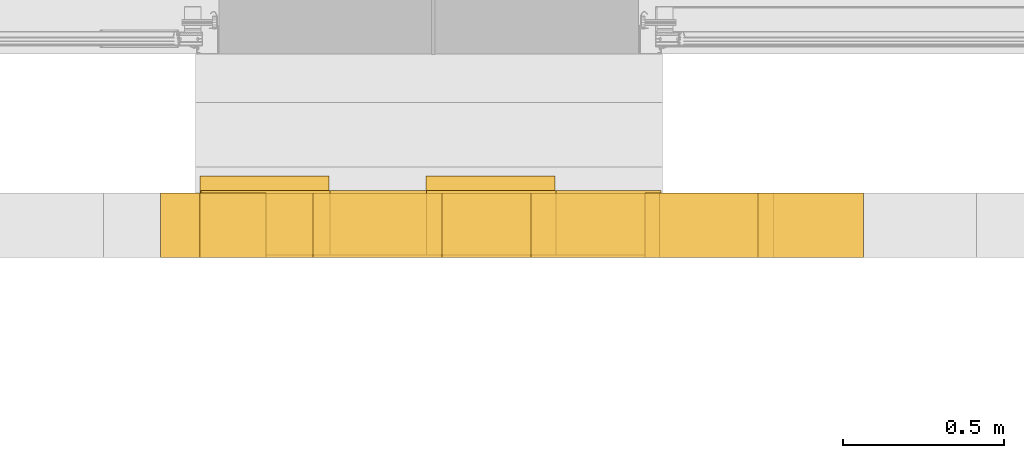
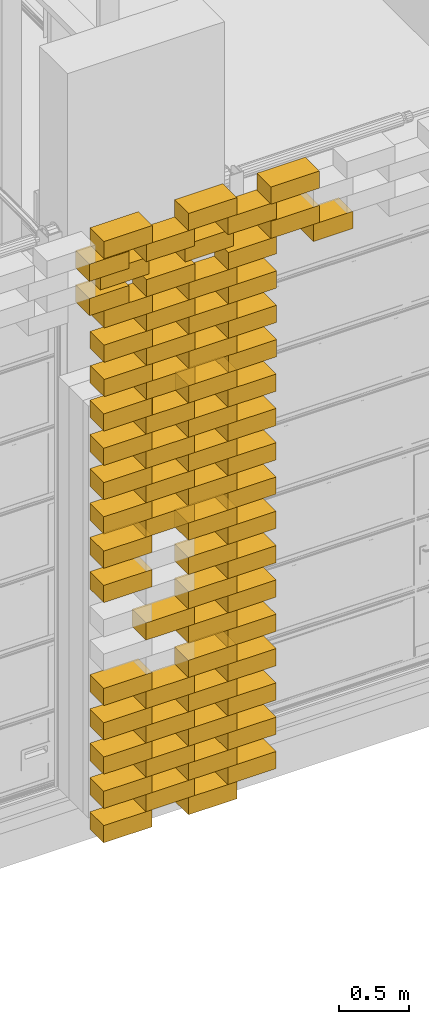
# One storey, part 55 of 62: 75 railings.
"""IFC2X3 building model written with IfcOpenShell, lengths in millimetres."""

import ifcopenshell
import ifcopenshell.guid

model = None  # the IFC model being written
_history = None  # IfcOwnerHistory: only IFC2X3 demands one
_inside = {}  # id of a spatial element -> (the spatial element, [elements in it])
_under = {}  # id of a project, library or spatial element -> (it, [spatial elements below it])
_declared = {}  # id of a project -> (the project, [libraries it declares])
_typed = {}  # id of a type object -> (the type object, [elements of that type])
_made_of = {}  # id of a material, layer set ... -> (it, [elements and type objects made of it])


def new_model(schema):
    """Start an empty IFC model of exactly this schema.

    Asked for "IFC4X3", IfcOpenShell would pick the latest addendum, in which some entities
    have other attributes; the version numbers below select the first issue.
    IFC2X3 requires an IfcOwnerHistory on every rooted entity: one is made here for all.
    """
    global model, _history
    if schema == "IFC4X3":
        model = ifcopenshell.file(schema_version=(4, 3, 0, 0))
    else:
        model = ifcopenshell.file(schema=schema)
    _inside.clear()
    _under.clear()
    _declared.clear()
    _typed.clear()
    _made_of.clear()
    _history = None
    if model.schema == "IFC2X3":
        org = make("IfcOrganization", Name="unknown")
        user = make(
            "IfcPersonAndOrganization",
            ThePerson=make("IfcPerson", FamilyName="unknown"),
            TheOrganization=org,
        )
        app = make(
            "IfcApplication",
            ApplicationDeveloper=org,
            Version="unknown",
            ApplicationFullName="unknown",
            ApplicationIdentifier="unknown",
        )
        _history = make(
            "IfcOwnerHistory",
            OwningUser=user,
            OwningApplication=app,
            ChangeAction="ADDED",
            CreationDate=0,
        )
    return model


def make(cls, **values):
    """One entity of the class cls with the attributes given. An attribute that is None is left unset."""
    return model.create_entity(
        cls, **{name: value for name, value in values.items() if value is not None}
    )


def entity(cls, *values):
    """Any entity or typed value of the class cls, its attributes in the order of the schema. None: left unset."""
    e = model.create_entity(cls)
    for i, value in enumerate(values):
        if value is not None:
            e[i] = value
    return e


def rooted(cls, **values):
    """An entity with a GlobalId (a new one), such as an element, a storey or a relation."""
    return make(cls, GlobalId=ifcopenshell.guid.new(), OwnerHistory=_history, **values)


def si_unit(unit_type, name, prefix=None):
    """IfcSIUnit, for example si_unit("LENGTHUNIT", "METRE", prefix="MILLI")."""
    return make("IfcSIUnit", UnitType=unit_type, Prefix=prefix, Name=name)


def converted_unit(unit_type, name, factor, base, dimensions=None, offset=None):
    """IfcConversionBasedUnit, such as the inch: factor (a typed value) times the base unit."""
    return make(
        "IfcConversionBasedUnit"
        if offset is None
        else "IfcConversionBasedUnitWithOffset",
        ConversionOffset=offset,
        Dimensions=None
        if dimensions is None
        else entity("IfcDimensionalExponents", *dimensions),
        UnitType=unit_type,
        Name=name,
        ConversionFactor=make(
            "IfcMeasureWithUnit", ValueComponent=factor, UnitComponent=base
        ),
    )


def derived_unit(unit_type, elements):
    """IfcDerivedUnit: a product of units, each with its exponent."""
    return make(
        "IfcDerivedUnit",
        Elements=[
            make("IfcDerivedUnitElement", Unit=unit, Exponent=power)
            for unit, power in elements
        ],
        UnitType=unit_type,
    )


def money_unit(currency):
    """IfcMonetaryUnit."""
    return make("IfcMonetaryUnit", Currency=currency)


def assignment(units):
    """IfcUnitAssignment: the units of a project."""
    return None if units is None else make("IfcUnitAssignment", Units=units)


def point(xyz):
    """IfcCartesianPoint."""
    return None if xyz is None else make("IfcCartesianPoint", Coordinates=xyz)


def direction(xyz):
    """IfcDirection."""
    return None if xyz is None else make("IfcDirection", DirectionRatios=xyz)


def frame(location, z_axis=None, x_axis=None):
    """IfcAxis2Placement3D, a coordinate frame: its origin and axes. An axis left out is left unset."""
    return make(
        "IfcAxis2Placement3D",
        Location=point(location),
        Axis=direction(z_axis),
        RefDirection=direction(x_axis),
    )


def origin_with_axes():
    """The frame at (0, 0, 0) with the z axis (0, 0, 1) and the x axis (1, 0, 0) written out."""
    return frame((0.0, 0.0, 0.0), z_axis=(0.0, 0.0, 1.0), x_axis=(1.0, 0.0, 0.0))


def place(relative_to, where):
    """IfcLocalPlacement: puts the frame where relative to a parent placement (None: the world)."""
    return make(
        "IfcLocalPlacement", PlacementRelTo=relative_to, RelativePlacement=where
    )


def context(
    kind, dimensions, precision=None, world=None, true_north=None, identifier=None
):
    """IfcGeometricRepresentationContext, for example the 3D "Model" context."""
    return make(
        "IfcGeometricRepresentationContext",
        ContextIdentifier=identifier,
        ContextType=kind,
        CoordinateSpaceDimension=dimensions,
        Precision=precision,
        WorldCoordinateSystem=world,
        TrueNorth=true_north,
    )


def subcontext(parent, identifier, kind, view, scale=None):
    """IfcGeometricRepresentationSubContext, for example "Body" below "Model"."""
    return make(
        "IfcGeometricRepresentationSubContext",
        ContextIdentifier=identifier,
        ContextType=kind,
        ParentContext=parent,
        TargetScale=scale,
        TargetView=view,
    )


def project(units=None, contexts=None):
    """IfcProject with its units and contexts."""
    return rooted(
        "IfcProject",
        Name="project",
        RepresentationContexts=contexts,
        UnitsInContext=assignment(units),
    )


def spatial(cls, under=None, at=None, **own):
    """A site, building, storey or space (cls), placed at a placement, below another one or the project."""
    s = rooted(cls, ObjectPlacement=at, **own)
    if under is not None:
        _under.setdefault(under.id(), (under, []))[1].append(s)
    return s


def polyline(points):
    """IfcPolyline through the points."""
    return make("IfcPolyline", Points=[point(p) for p in points])


def outline(outer, holes=None, kind="AREA"):
    """IfcArbitraryClosedProfileDef: a profile drawn as a closed curve; with holes, ...WithVoids."""
    if holes is None:
        return make("IfcArbitraryClosedProfileDef", ProfileType=kind, OuterCurve=outer)
    return make(
        "IfcArbitraryProfileDefWithVoids",
        ProfileType=kind,
        OuterCurve=outer,
        InnerCurves=holes,
    )


def extrude(swept, where, along, depth):
    """IfcExtrudedAreaSolid: the profile swept, set in the frame where, extruded along a direction by depth."""
    return make(
        "IfcExtrudedAreaSolid",
        SweptArea=swept,
        Position=where,
        ExtrudedDirection=direction(along),
        Depth=depth,
    )


def shape(context_of_items, identifier, shape_type, items):
    """IfcShapeRepresentation: the items that make up one representation, for example the "Body"."""
    return make(
        "IfcShapeRepresentation",
        ContextOfItems=context_of_items,
        RepresentationIdentifier=identifier,
        RepresentationType=shape_type,
        Items=items,
    )


def material(Name=None, Category=None):
    """IfcMaterial."""
    return make("IfcMaterial", Name=Name, Category=Category)


def made_of(thing, what):
    """Note that an element or type object is made of a material, layer set ...; save() writes the relation."""
    if what is not None:
        _made_of.setdefault(what.id(), (what, []))[1].append(thing)
    return thing


def type_object(cls, material=None, **own):
    """A type object (cls), such as IfcWallType, which elements share."""
    return made_of(rooted(cls, **own), material)


def element(
    cls,
    number,
    at=None,
    inside=None,
    cuts=None,
    type_object=None,
    material=None,
    context=None,
    identifier="Body",
    shape_type=None,
    held_by="IfcProductDefinitionShape",
    body=None,
    shapes=None,
    **own,
):
    """One element of the class cls, such as IfcWall. Its Tag is "e" and its number.

    at: its placement. inside: the storey or other place that contains it. cuts: it is an
    opening in that element (IfcRelVoidsElement). A single representation is given by context,
    identifier, shape_type and body (its items); several are given by shapes. held_by: the class
    of the entity that holds the representations. save() writes the other relations.
    """
    e = rooted(cls, Tag="e%d" % number, ObjectPlacement=at, **own)
    if body is not None:
        shapes = [shape(context, identifier, shape_type, body)]
    if shapes is not None:
        e.Representation = make(held_by, Representations=shapes)
    if inside is not None:
        _inside.setdefault(inside.id(), (inside, []))[1].append(e)
    if cuts is not None:
        rooted(
            "IfcRelVoidsElement", RelatingBuildingElement=cuts, RelatedOpeningElement=e
        )
    if type_object is not None:
        _typed.setdefault(type_object.id(), (type_object, []))[1].append(e)
    return made_of(e, material)


def aggregate(whole, parts):
    """IfcRelAggregates: a whole, such as a stair, and the parts it consists of."""
    return rooted("IfcRelAggregates", RelatingObject=whole, RelatedObjects=parts)


def save(model, path):
    """Write the relations noted so far, then the file.

    IfcRelAggregates (storeys below a building ...), IfcRelContainedInSpatialStructure (elements
    in a storey), IfcRelDefinesByType, IfcRelAssociatesMaterial and IfcRelDeclares: one each for
    every whole, place, type object, material and project.
    """
    for whole, parts in _under.values():
        aggregate(whole, parts)
    for where, things in _inside.values():
        rooted(
            "IfcRelContainedInSpatialStructure",
            RelatedElements=things,
            RelatingStructure=where,
        )
    for kind, things in _typed.values():
        rooted("IfcRelDefinesByType", RelatedObjects=things, RelatingType=kind)
    for what, things in _made_of.values():
        rooted("IfcRelAssociatesMaterial", RelatedObjects=things, RelatingMaterial=what)
    for by, libraries in _declared.values():
        rooted("IfcRelDeclares", RelatingContext=by, RelatedDefinitions=libraries)
    model.write(path)


model = new_model("IFC2X3")

# Units and contexts
model_context = context("Model", 3, precision=0.01, world=origin_with_axes(), true_north=direction((0.0, 1.0)))
body_context = subcontext(model_context, "Body", "Model", "MODEL_VIEW")
ifc_project = project(units=[si_unit("LENGTHUNIT", "METRE", prefix="MILLI"), si_unit("AREAUNIT", "SQUARE_METRE"), si_unit("VOLUMEUNIT", "CUBIC_METRE"), converted_unit("PLANEANGLEUNIT", "DEGREE", entity("IfcPlaneAngleMeasure", 0.0174532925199), si_unit("PLANEANGLEUNIT", "RADIAN"), dimensions=[0, 0, 0, 0, 0, 0, 0]), si_unit("SOLIDANGLEUNIT", "STERADIAN"), money_unit("EUR"), converted_unit("TIMEUNIT", "Year", entity("IfcTimeMeasure", 31556926.0), si_unit("TIMEUNIT", "SECOND"), dimensions=[0, 0, 1, 0, 0, 0, 0]), si_unit("MASSUNIT", "GRAM", prefix="KILO"), si_unit("THERMODYNAMICTEMPERATUREUNIT", "DEGREE_CELSIUS"), si_unit("LUMINOUSINTENSITYUNIT", "LUMEN"), si_unit("ENERGYUNIT", "JOULE", prefix="MEGA"), derived_unit("THERMALCONDUCTANCEUNIT", [(si_unit("POWERUNIT", "WATT"), 1), (si_unit("LENGTHUNIT", "METRE"), -1), (si_unit("THERMODYNAMICTEMPERATUREUNIT", "KELVIN"), -1)]), derived_unit("SPECIFICHEATCAPACITYUNIT", [(si_unit("ENERGYUNIT", "JOULE"), 1), (si_unit("MASSUNIT", "GRAM", prefix="KILO"), -1), (si_unit("THERMODYNAMICTEMPERATUREUNIT", "KELVIN"), -1)]), derived_unit("MASSDENSITYUNIT", [(si_unit("MASSUNIT", "GRAM", prefix="KILO"), 1), (si_unit("VOLUMEUNIT", "CUBIC_METRE"), -1)])], contexts=[model_context])

# Site, building, storey
site_placement = place(None, origin_with_axes())
site = spatial("IfcSite", under=ifc_project, at=site_placement, Name="KIRDE 14, ELVA", CompositionType="ELEMENT")
building_placement = place(site_placement, origin_with_axes())
building = spatial("IfcBuilding", under=site, at=building_placement, Name="PPA ja Päästeameti ühishoone", CompositionType="ELEMENT")
storey_placement = place(building_placement, origin_with_axes())
storey = spatial("IfcBuildingStorey", under=building, at=storey_placement, Name="Esimene korrus", CompositionType="ELEMENT", Elevation=0.0)

# Railings
ifc_material = material(Name="Air Space")
railing_type = type_object("IfcRailingType", Name="Air Space 200", PredefinedType="NOTDEFINED")
for number, where, z_axis, x_axis in (
    (1, (33822.9681008, -431.000100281, 1100.0), (0.0, 0.0, 1.0), (1.0, -2.32830643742e-09, 0.0)),
    (2, (33822.9681008, -431.000100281, 1700.0), (0.0, 0.0, 1.0), (1.0, -2.32830643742e-09, 0.0)),
):
    element("IfcRailing", number, at=place(storey_placement, frame(where, z_axis=z_axis, x_axis=x_axis)), inside=storey, type_object=railing_type, material=ifc_material, Name="plokk", PredefinedType="NOTDEFINED", context=body_context, shape_type="SweptSolid", body=[
        extrude(outline(polyline([(0.0, -200.0), (399.999999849, -200.0), (399.999999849, 0.0), (0.0, 0.0), (0.0, -200.0)])), origin_with_axes(), (0.0, 0.0, 1.0), 150.0),
    ])
railing_1_placement = place(storey_placement, frame((34855.8351083, -431.000095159, 4550.0), z_axis=(0.0, 0.0, 1.0), x_axis=(1.0, 0.0, 0.0)))
element("IfcRailing", 3, at=railing_1_placement, inside=storey, type_object=railing_type, material=ifc_material, Name="plokk", PredefinedType="NOTDEFINED", context=body_context, shape_type="SweptSolid", body=[
    extrude(outline(polyline([(0.0, -200.0), (327.204635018, -200.0), (327.204635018, 0.0), (0.0, 0.0), (0.0, -200.0)])), origin_with_axes(), (0.0, 0.0, 1.0), 150.0),
])
for number, where, z_axis, x_axis in (
    (4, (33822.9681008, -431.000100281, 1400.0), (0.0, 0.0, 1.0), (1.0, -2.32830643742e-09, 0.0)),
    (5, (33822.9681008, -431.000100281, 1100.0), (0.0, 0.0, 1.0), (1.0, -2.32830643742e-09, 0.0)),
):
    element("IfcRailing", number, at=place(storey_placement, frame(where, z_axis=z_axis, x_axis=x_axis)), inside=storey, type_object=railing_type, material=ifc_material, Name="plokk", PredefinedType="NOTDEFINED", context=body_context, shape_type="SweptSolid", body=[
        extrude(outline(polyline([(0.0, -200.0), (399.999999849, -200.0), (399.999999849, 0.0), (0.0, 0.0), (0.0, -200.0)])), origin_with_axes(), (0.0, 0.0, 1.0), 150.0),
    ])
railing_2_placement = place(storey_placement, frame((33472.9681004, -431.000100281, 950.0), z_axis=(0.0, 0.0, 1.0), x_axis=(1.0, -2.3283064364e-09, 0.0)))
element("IfcRailing", 6, at=railing_2_placement, inside=storey, type_object=railing_type, material=ifc_material, Name="plokk", PredefinedType="NOTDEFINED", context=body_context, shape_type="SweptSolid", body=[
    extrude(outline(polyline([(0.0, -200.0), (400.000000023, -200.0), (400.000000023, 0.0), (0.0, 0.0), (0.0, -200.0)])), origin_with_axes(), (0.0, 0.0, 1.0), 150.0),
])
railing_3_placement = place(storey_placement, frame((33122.9681001, -431.000100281, -100.0), z_axis=(0.0, 0.0, 1.0), x_axis=(1.0, 0.0, 0.0)))
element("IfcRailing", 7, at=railing_3_placement, inside=storey, type_object=railing_type, material=ifc_material, Name="plokk", PredefinedType="NOTDEFINED", context=body_context, shape_type="SweptSolid", body=[
    extrude(outline(polyline([(0.0, -200.0), (400.000000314, -200.0), (400.000000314, 0.0), (0.0, 0.0), (0.0, -200.0)])), origin_with_axes(), (0.0, 0.0, 1.0), 150.0),
])
railing_4_placement = place(storey_placement, frame((33822.9681008, -431.000100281, 200.0), z_axis=(0.0, 0.0, 1.0), x_axis=(1.0, -2.32830643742e-09, 0.0)))
element("IfcRailing", 8, at=railing_4_placement, inside=storey, type_object=railing_type, material=ifc_material, Name="plokk", PredefinedType="NOTDEFINED", context=body_context, shape_type="SweptSolid", body=[
    extrude(outline(polyline([(0.0, -200.0), (399.999999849, -200.0), (399.999999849, 0.0), (0.0, 0.0), (0.0, -200.0)])), origin_with_axes(), (0.0, 0.0, 1.0), 150.0),
])
railing_5_placement = place(storey_placement, frame((33472.9681004, -431.000100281, 50.0), z_axis=(0.0, 0.0, 1.0), x_axis=(1.0, -2.3283064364e-09, 0.0)))
element("IfcRailing", 9, at=railing_5_placement, inside=storey, type_object=railing_type, material=ifc_material, Name="plokk", PredefinedType="NOTDEFINED", context=body_context, shape_type="SweptSolid", body=[
    extrude(outline(polyline([(0.0, -200.0), (400.000000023, -200.0), (400.000000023, 0.0), (0.0, 0.0), (0.0, -200.0)])), origin_with_axes(), (0.0, 0.0, 1.0), 150.0),
])
railing_6_placement = place(storey_placement, frame((33122.9681001, -431.000100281, 200.0), z_axis=(0.0, 0.0, 1.0), x_axis=(1.0, 0.0, 0.0)))
element("IfcRailing", 10, at=railing_6_placement, inside=storey, type_object=railing_type, material=ifc_material, Name="plokk", PredefinedType="NOTDEFINED", context=body_context, shape_type="SweptSolid", body=[
    extrude(outline(polyline([(0.0, -200.0), (400.000000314, -200.0), (400.000000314, 0.0), (0.0, 0.0), (0.0, -200.0)])), origin_with_axes(), (0.0, 0.0, 1.0), 150.0),
])
railing_7_placement = place(storey_placement, frame((33822.9681008, -431.000100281, 800.0), z_axis=(0.0, 0.0, 1.0), x_axis=(1.0, -2.32830643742e-09, 0.0)))
element("IfcRailing", 11, at=railing_7_placement, inside=storey, type_object=railing_type, material=ifc_material, Name="plokk", PredefinedType="NOTDEFINED", context=body_context, shape_type="SweptSolid", body=[
    extrude(outline(polyline([(0.0, -200.0), (399.999999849, -200.0), (399.999999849, 0.0), (0.0, 0.0), (0.0, -200.0)])), origin_with_axes(), (0.0, 0.0, 1.0), 150.0),
])
railing_8_placement = place(storey_placement, frame((33472.9681004, -431.000100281, 350.0), z_axis=(0.0, 0.0, 1.0), x_axis=(1.0, -2.3283064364e-09, 0.0)))
element("IfcRailing", 12, at=railing_8_placement, inside=storey, type_object=railing_type, material=ifc_material, Name="plokk", PredefinedType="NOTDEFINED", context=body_context, shape_type="SweptSolid", body=[
    extrude(outline(polyline([(0.0, -200.0), (400.000000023, -200.0), (400.000000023, 0.0), (0.0, 0.0), (0.0, -200.0)])), origin_with_axes(), (0.0, 0.0, 1.0), 150.0),
])
railing_9_placement = place(storey_placement, frame((33822.9681008, -431.000100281, 2000.0), z_axis=(0.0, 0.0, 1.0), x_axis=(1.0, -2.32830643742e-09, 0.0)))
element("IfcRailing", 13, at=railing_9_placement, inside=storey, type_object=railing_type, material=ifc_material, Name="plokk", PredefinedType="NOTDEFINED", context=body_context, shape_type="SweptSolid", body=[
    extrude(outline(polyline([(0.0, -200.0), (399.999999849, -200.0), (399.999999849, 0.0), (0.0, 0.0), (0.0, -200.0)])), origin_with_axes(), (0.0, 0.0, 1.0), 150.0),
])
railing_10_placement = place(storey_placement, frame((33122.9681001, -431.000100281, 2000.0), z_axis=(0.0, 0.0, 1.0), x_axis=(1.0, 0.0, 0.0)))
element("IfcRailing", 14, at=railing_10_placement, inside=storey, type_object=railing_type, material=ifc_material, Name="plokk", PredefinedType="NOTDEFINED", context=body_context, shape_type="SweptSolid", body=[
    extrude(outline(polyline([(0.0, -200.0), (400.000000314, -200.0), (400.000000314, 0.0), (0.0, 0.0), (0.0, -200.0)])), origin_with_axes(), (0.0, 0.0, 1.0), 150.0),
])
railing_11_placement = place(storey_placement, frame((34505.8351086, -431.000094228, 4700.0), z_axis=(0.0, 0.0, 1.0), x_axis=(1.0, -2.32830643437e-09, 0.0)))
element("IfcRailing", 15, at=railing_11_placement, inside=storey, type_object=railing_type, material=ifc_material, Name="plokk", PredefinedType="NOTDEFINED", context=body_context, shape_type="SweptSolid", body=[
    extrude(outline(polyline([(0.0, -200.0), (400.000000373, -200.0), (400.000000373, 0.0), (0.0, 0.0), (0.0, -200.0)])), origin_with_axes(), (0.0, 0.0, 1.0), 150.0),
])
for number, where, z_axis, x_axis in (
    (16, (34152.8961241, -431.000100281, 4250.0), (0.0, 0.0, 1.0), (1.0, 2.32830643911e-09, 0.0)),
    (17, (34152.8961241, -431.000100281, 4550.0), (0.0, 0.0, 1.0), (1.0, 2.32830643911e-09, 0.0)),
    (18, (34152.8961241, -431.000100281, 3950.0), (0.0, 0.0, 1.0), (1.0, 2.32830643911e-09, 0.0)),
    (19, (34152.8961241, -431.000100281, 3650.0), (0.0, 0.0, 1.0), (1.0, 2.32830643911e-09, 0.0)),
):
    element("IfcRailing", number, at=place(storey_placement, frame(where, z_axis=z_axis, x_axis=x_axis)), inside=storey, type_object=railing_type, material=ifc_material, Name="plokk", PredefinedType="NOTDEFINED", context=body_context, shape_type="SweptSolid", body=[
        extrude(outline(polyline([(0.0, -200.0), (399.999999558, -200.0), (399.999999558, 0.0), (0.0, 0.0), (0.0, -200.0)])), origin_with_axes(), (0.0, 0.0, 1.0), 150.0),
    ])
railing_12_placement = place(storey_placement, frame((33126.5679142, -377.395681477, 4700.0), z_axis=(0.0, 0.0, 1.0), x_axis=(1.0, 0.0, 0.0)))
element("IfcRailing", 20, at=railing_12_placement, inside=storey, type_object=railing_type, material=ifc_material, Name="plokk", PredefinedType="NOTDEFINED", context=body_context, shape_type="SweptSolid", body=[
    extrude(outline(polyline([(0.0, -200.0), (400.000000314, -200.0), (400.000000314, 0.0), (0.0, 0.0), (0.0, -200.0)])), origin_with_axes(), (0.0, 0.0, 1.0), 150.0),
])
railing_13_placement = place(storey_placement, frame((34155.8351083, -422.760598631, 4850.0), z_axis=(0.0, 0.0, 1.0), x_axis=(1.0, 2.32830643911e-09, 0.0)))
element("IfcRailing", 21, at=railing_13_placement, inside=storey, type_object=railing_type, material=ifc_material, Name="plokk", PredefinedType="NOTDEFINED", context=body_context, shape_type="SweptSolid", body=[
    extrude(outline(polyline([(0.0, -200.0), (399.999999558, -200.0), (399.999999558, 0.0), (0.0, 0.0), (0.0, -200.0)])), origin_with_axes(), (0.0, 0.0, 1.0), 150.0),
])
railing_14_placement = place(storey_placement, frame((34505.8351086, -431.000094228, 5000.0), z_axis=(0.0, 0.0, 1.0), x_axis=(1.0, -2.32830643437e-09, 0.0)))
element("IfcRailing", 22, at=railing_14_placement, inside=storey, type_object=railing_type, material=ifc_material, Name="plokk", PredefinedType="NOTDEFINED", context=body_context, shape_type="SweptSolid", body=[
    extrude(outline(polyline([(0.0, -200.0), (400.000000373, -200.0), (400.000000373, 0.0), (0.0, 0.0), (0.0, -200.0)])), origin_with_axes(), (0.0, 0.0, 1.0), 150.0),
])
railing_15_placement = place(storey_placement, frame((33826.5679149, -377.395681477, 4700.0), z_axis=(0.0, 0.0, 1.0), x_axis=(1.0, -2.32830643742e-09, 0.0)))
element("IfcRailing", 23, at=railing_15_placement, inside=storey, type_object=railing_type, material=ifc_material, Name="plokk", PredefinedType="NOTDEFINED", context=body_context, shape_type="SweptSolid", body=[
    extrude(outline(polyline([(0.0, -200.0), (399.999999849, -200.0), (399.999999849, 0.0), (0.0, 0.0), (0.0, -200.0)])), origin_with_axes(), (0.0, 0.0, 1.0), 150.0),
])
railing_16_placement = place(storey_placement, frame((33476.5679144, -431.000100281, 4550.0), z_axis=(0.0, 0.0, 1.0), x_axis=(1.0, -2.3283064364e-09, 0.0)))
element("IfcRailing", 24, at=railing_16_placement, inside=storey, type_object=railing_type, material=ifc_material, Name="plokk", PredefinedType="NOTDEFINED", context=body_context, shape_type="SweptSolid", body=[
    extrude(outline(polyline([(0.0, -200.0), (400.000000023, -200.0), (400.000000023, 0.0), (0.0, 0.0), (0.0, -200.0)])), origin_with_axes(), (0.0, 0.0, 1.0), 150.0),
])
railing_17_placement = place(storey_placement, frame((33829.506899, -422.760598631, 5000.0), z_axis=(0.0, 0.0, 1.0), x_axis=(1.0, -2.32830643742e-09, 0.0)))
element("IfcRailing", 25, at=railing_17_placement, inside=storey, type_object=railing_type, material=ifc_material, Name="plokk", PredefinedType="NOTDEFINED", context=body_context, shape_type="SweptSolid", body=[
    extrude(outline(polyline([(0.0, -200.0), (399.999999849, -200.0), (399.999999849, 0.0), (0.0, 0.0), (0.0, -200.0)])), origin_with_axes(), (0.0, 0.0, 1.0), 150.0),
])
for number, where, z_axis, x_axis in (
    (26, (33126.5679142, -431.000100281, 3800.0), (0.0, 0.0, 1.0), (1.0, 0.0, 0.0)),
    (27, (33126.5679142, -431.000100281, 3500.0), (0.0, 0.0, 1.0), (1.0, 0.0, 0.0)),
):
    element("IfcRailing", number, at=place(storey_placement, frame(where, z_axis=z_axis, x_axis=x_axis)), inside=storey, type_object=railing_type, material=ifc_material, Name="plokk", PredefinedType="NOTDEFINED", context=body_context, shape_type="SweptSolid", body=[
        extrude(outline(polyline([(0.0, -200.0), (400.000000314, -200.0), (400.000000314, 0.0), (0.0, 0.0), (0.0, -200.0)])), origin_with_axes(), (0.0, 0.0, 1.0), 150.0),
    ])
railing_18_placement = place(storey_placement, frame((33826.5679149, -431.000100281, 3500.0), z_axis=(0.0, 0.0, 1.0), x_axis=(1.0, -2.32830643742e-09, 0.0)))
element("IfcRailing", 28, at=railing_18_placement, inside=storey, type_object=railing_type, material=ifc_material, Name="plokk", PredefinedType="NOTDEFINED", context=body_context, shape_type="SweptSolid", body=[
    extrude(outline(polyline([(0.0, -200.0), (399.999999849, -200.0), (399.999999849, 0.0), (0.0, 0.0), (0.0, -200.0)])), origin_with_axes(), (0.0, 0.0, 1.0), 150.0),
])
railing_19_placement = place(storey_placement, frame((33476.5679144, -431.000100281, 3650.0), z_axis=(0.0, 0.0, 1.0), x_axis=(1.0, -2.3283064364e-09, 0.0)))
element("IfcRailing", 29, at=railing_19_placement, inside=storey, type_object=railing_type, material=ifc_material, Name="plokk", PredefinedType="NOTDEFINED", context=body_context, shape_type="SweptSolid", body=[
    extrude(outline(polyline([(0.0, -200.0), (400.000000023, -200.0), (400.000000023, 0.0), (0.0, 0.0), (0.0, -200.0)])), origin_with_axes(), (0.0, 0.0, 1.0), 150.0),
])
railing_20_placement = place(storey_placement, frame((33826.5679149, -431.000100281, 3800.0), z_axis=(0.0, 0.0, 1.0), x_axis=(1.0, -2.32830643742e-09, 0.0)))
element("IfcRailing", 30, at=railing_20_placement, inside=storey, type_object=railing_type, material=ifc_material, Name="plokk", PredefinedType="NOTDEFINED", context=body_context, shape_type="SweptSolid", body=[
    extrude(outline(polyline([(0.0, -200.0), (399.999999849, -200.0), (399.999999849, 0.0), (0.0, 0.0), (0.0, -200.0)])), origin_with_axes(), (0.0, 0.0, 1.0), 150.0),
])
railing_21_placement = place(storey_placement, frame((33476.5679144, -431.000100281, 3950.0), z_axis=(0.0, 0.0, 1.0), x_axis=(1.0, -2.3283064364e-09, 0.0)))
element("IfcRailing", 31, at=railing_21_placement, inside=storey, type_object=railing_type, material=ifc_material, Name="plokk", PredefinedType="NOTDEFINED", context=body_context, shape_type="SweptSolid", body=[
    extrude(outline(polyline([(0.0, -200.0), (400.000000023, -200.0), (400.000000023, 0.0), (0.0, 0.0), (0.0, -200.0)])), origin_with_axes(), (0.0, 0.0, 1.0), 150.0),
])
railing_22_placement = place(storey_placement, frame((33126.5679142, -431.000100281, 4100.0), z_axis=(0.0, 0.0, 1.0), x_axis=(1.0, 0.0, 0.0)))
element("IfcRailing", 32, at=railing_22_placement, inside=storey, type_object=railing_type, material=ifc_material, Name="plokk", PredefinedType="NOTDEFINED", context=body_context, shape_type="SweptSolid", body=[
    extrude(outline(polyline([(0.0, -200.0), (400.000000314, -200.0), (400.000000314, 0.0), (0.0, 0.0), (0.0, -200.0)])), origin_with_axes(), (0.0, 0.0, 1.0), 150.0),
])
railing_23_placement = place(storey_placement, frame((33826.5679149, -431.000100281, 4100.0), z_axis=(0.0, 0.0, 1.0), x_axis=(1.0, -2.32830643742e-09, 0.0)))
element("IfcRailing", 33, at=railing_23_placement, inside=storey, type_object=railing_type, material=ifc_material, Name="plokk", PredefinedType="NOTDEFINED", context=body_context, shape_type="SweptSolid", body=[
    extrude(outline(polyline([(0.0, -200.0), (399.999999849, -200.0), (399.999999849, 0.0), (0.0, 0.0), (0.0, -200.0)])), origin_with_axes(), (0.0, 0.0, 1.0), 150.0),
])
railing_24_placement = place(storey_placement, frame((33476.5679144, -431.000100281, 4250.0), z_axis=(0.0, 0.0, 1.0), x_axis=(1.0, -2.3283064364e-09, 0.0)))
element("IfcRailing", 34, at=railing_24_placement, inside=storey, type_object=railing_type, material=ifc_material, Name="plokk", PredefinedType="NOTDEFINED", context=body_context, shape_type="SweptSolid", body=[
    extrude(outline(polyline([(0.0, -200.0), (400.000000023, -200.0), (400.000000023, 0.0), (0.0, 0.0), (0.0, -200.0)])), origin_with_axes(), (0.0, 0.0, 1.0), 150.0),
])
railing_25_placement = place(storey_placement, frame((33126.5679142, -431.000100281, 4400.0), z_axis=(0.0, 0.0, 1.0), x_axis=(1.0, 0.0, 0.0)))
element("IfcRailing", 35, at=railing_25_placement, inside=storey, type_object=railing_type, material=ifc_material, Name="plokk", PredefinedType="NOTDEFINED", context=body_context, shape_type="SweptSolid", body=[
    extrude(outline(polyline([(0.0, -200.0), (400.000000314, -200.0), (400.000000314, 0.0), (0.0, 0.0), (0.0, -200.0)])), origin_with_axes(), (0.0, 0.0, 1.0), 150.0),
])
railing_26_placement = place(storey_placement, frame((33826.5679149, -431.000100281, 4400.0), z_axis=(0.0, 0.0, 1.0), x_axis=(1.0, -2.32830643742e-09, 0.0)))
element("IfcRailing", 36, at=railing_26_placement, inside=storey, type_object=railing_type, material=ifc_material, Name="plokk", PredefinedType="NOTDEFINED", context=body_context, shape_type="SweptSolid", body=[
    extrude(outline(polyline([(0.0, -200.0), (399.999999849, -200.0), (399.999999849, 0.0), (0.0, 0.0), (0.0, -200.0)])), origin_with_axes(), (0.0, 0.0, 1.0), 150.0),
])
for number, where, z_axis, x_axis in (
    (37, (33472.9681004, -431.000100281, 3050.0), (0.0, 0.0, 1.0), (1.0, -2.3283064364e-09, 0.0)),
    (38, (33472.9681004, -431.000100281, 2750.0), (0.0, 0.0, 1.0), (1.0, -2.3283064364e-09, 0.0)),
):
    element("IfcRailing", number, at=place(storey_placement, frame(where, z_axis=z_axis, x_axis=x_axis)), inside=storey, type_object=railing_type, material=ifc_material, Name="plokk", PredefinedType="NOTDEFINED", context=body_context, shape_type="SweptSolid", body=[
        extrude(outline(polyline([(0.0, -200.0), (400.000000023, -200.0), (400.000000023, 0.0), (0.0, 0.0), (0.0, -200.0)])), origin_with_axes(), (0.0, 0.0, 1.0), 150.0),
    ])
railing_27_placement = place(storey_placement, frame((33822.9681008, -431.000100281, 2900.0), z_axis=(0.0, 0.0, 1.0), x_axis=(1.0, -2.32830643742e-09, 0.0)))
element("IfcRailing", 39, at=railing_27_placement, inside=storey, type_object=railing_type, material=ifc_material, Name="plokk", PredefinedType="NOTDEFINED", context=body_context, shape_type="SweptSolid", body=[
    extrude(outline(polyline([(0.0, -200.0), (399.999999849, -200.0), (399.999999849, 0.0), (0.0, 0.0), (0.0, -200.0)])), origin_with_axes(), (0.0, 0.0, 1.0), 150.0),
])
for number, where, z_axis, x_axis in (
    (40, (34149.2963101, -431.000100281, 3050.0), (0.0, 0.0, 1.0), (1.0, 2.32830643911e-09, 0.0)),
    (41, (34149.2963101, -431.000100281, 3350.0), (0.0, 0.0, 1.0), (1.0, 2.32830643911e-09, 0.0)),
):
    element("IfcRailing", number, at=place(storey_placement, frame(where, z_axis=z_axis, x_axis=x_axis)), inside=storey, type_object=railing_type, material=ifc_material, Name="plokk", PredefinedType="NOTDEFINED", context=body_context, shape_type="SweptSolid", body=[
        extrude(outline(polyline([(0.0, -200.0), (399.999999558, -200.0), (399.999999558, 0.0), (0.0, 0.0), (0.0, -200.0)])), origin_with_axes(), (0.0, 0.0, 1.0), 150.0),
    ])
railing_28_placement = place(storey_placement, frame((33122.9681001, -431.000100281, 2300.0), z_axis=(0.0, 0.0, 1.0), x_axis=(1.0, 0.0, 0.0)))
element("IfcRailing", 42, at=railing_28_placement, inside=storey, type_object=railing_type, material=ifc_material, Name="plokk", PredefinedType="NOTDEFINED", context=body_context, shape_type="SweptSolid", body=[
    extrude(outline(polyline([(0.0, -200.0), (400.000000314, -200.0), (400.000000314, 0.0), (0.0, 0.0), (0.0, -200.0)])), origin_with_axes(), (0.0, 0.0, 1.0), 150.0),
])
railing_29_placement = place(storey_placement, frame((33822.9681008, -431.000100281, 2600.0), z_axis=(0.0, 0.0, 1.0), x_axis=(1.0, -2.32830643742e-09, 0.0)))
element("IfcRailing", 43, at=railing_29_placement, inside=storey, type_object=railing_type, material=ifc_material, Name="plokk", PredefinedType="NOTDEFINED", context=body_context, shape_type="SweptSolid", body=[
    extrude(outline(polyline([(0.0, -200.0), (399.999999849, -200.0), (399.999999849, 0.0), (0.0, 0.0), (0.0, -200.0)])), origin_with_axes(), (0.0, 0.0, 1.0), 150.0),
])
railing_30_placement = place(storey_placement, frame((34149.2963101, -431.000100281, 2150.0), z_axis=(0.0, 0.0, 1.0), x_axis=(1.0, 2.32830643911e-09, 0.0)))
element("IfcRailing", 44, at=railing_30_placement, inside=storey, type_object=railing_type, material=ifc_material, Name="plokk", PredefinedType="NOTDEFINED", context=body_context, shape_type="SweptSolid", body=[
    extrude(outline(polyline([(0.0, -200.0), (399.999999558, -200.0), (399.999999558, 0.0), (0.0, 0.0), (0.0, -200.0)])), origin_with_axes(), (0.0, 0.0, 1.0), 150.0),
])
railing_31_placement = place(storey_placement, frame((33122.9681001, -431.000100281, 1100.0), z_axis=(0.0, 0.0, 1.0), x_axis=(1.0, 0.0, 0.0)))
element("IfcRailing", 45, at=railing_31_placement, inside=storey, type_object=railing_type, material=ifc_material, Name="plokk", PredefinedType="NOTDEFINED", context=body_context, shape_type="SweptSolid", body=[
    extrude(outline(polyline([(0.0, -200.0), (400.000000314, -200.0), (400.000000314, 0.0), (0.0, 0.0), (0.0, -200.0)])), origin_with_axes(), (0.0, 0.0, 1.0), 150.0),
])
railing_32_placement = place(storey_placement, frame((33822.9681008, -431.000100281, 2300.0), z_axis=(0.0, 0.0, 1.0), x_axis=(1.0, -2.32830643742e-09, 0.0)))
element("IfcRailing", 46, at=railing_32_placement, inside=storey, type_object=railing_type, material=ifc_material, Name="plokk", PredefinedType="NOTDEFINED", context=body_context, shape_type="SweptSolid", body=[
    extrude(outline(polyline([(0.0, -200.0), (399.999999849, -200.0), (399.999999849, 0.0), (0.0, 0.0), (0.0, -200.0)])), origin_with_axes(), (0.0, 0.0, 1.0), 150.0),
])
railing_33_placement = place(storey_placement, frame((34149.2963101, -431.000100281, 1850.0), z_axis=(0.0, 0.0, 1.0), x_axis=(1.0, 2.32830643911e-09, 0.0)))
element("IfcRailing", 47, at=railing_33_placement, inside=storey, type_object=railing_type, material=ifc_material, Name="plokk", PredefinedType="NOTDEFINED", context=body_context, shape_type="SweptSolid", body=[
    extrude(outline(polyline([(0.0, -200.0), (399.999999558, -200.0), (399.999999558, 0.0), (0.0, 0.0), (0.0, -200.0)])), origin_with_axes(), (0.0, 0.0, 1.0), 150.0),
])
railing_34_placement = place(storey_placement, frame((33122.9681001, -431.000100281, 2300.0), z_axis=(0.0, 0.0, 1.0), x_axis=(1.0, 0.0, 0.0)))
element("IfcRailing", 48, at=railing_34_placement, inside=storey, type_object=railing_type, material=ifc_material, Name="plokk", PredefinedType="NOTDEFINED", context=body_context, shape_type="SweptSolid", body=[
    extrude(outline(polyline([(0.0, -200.0), (400.000000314, -200.0), (400.000000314, 0.0), (0.0, 0.0), (0.0, -200.0)])), origin_with_axes(), (0.0, 0.0, 1.0), 150.0),
])
railing_35_placement = place(storey_placement, frame((33822.9681008, -431.000100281, 2300.0), z_axis=(0.0, 0.0, 1.0), x_axis=(1.0, -2.32830643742e-09, 0.0)))
element("IfcRailing", 49, at=railing_35_placement, inside=storey, type_object=railing_type, material=ifc_material, Name="plokk", PredefinedType="NOTDEFINED", context=body_context, shape_type="SweptSolid", body=[
    extrude(outline(polyline([(0.0, -200.0), (399.999999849, -200.0), (399.999999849, 0.0), (0.0, 0.0), (0.0, -200.0)])), origin_with_axes(), (0.0, 0.0, 1.0), 150.0),
])
railing_36_placement = place(storey_placement, frame((33472.9681004, -431.000100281, 2450.0), z_axis=(0.0, 0.0, 1.0), x_axis=(1.0, -2.3283064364e-09, 0.0)))
element("IfcRailing", 50, at=railing_36_placement, inside=storey, type_object=railing_type, material=ifc_material, Name="plokk", PredefinedType="NOTDEFINED", context=body_context, shape_type="SweptSolid", body=[
    extrude(outline(polyline([(0.0, -200.0), (400.000000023, -200.0), (400.000000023, 0.0), (0.0, 0.0), (0.0, -200.0)])), origin_with_axes(), (0.0, 0.0, 1.0), 150.0),
])
railing_37_placement = place(storey_placement, frame((33822.9681008, -431.000100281, 500.0), z_axis=(0.0, 0.0, 1.0), x_axis=(1.0, -2.32830643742e-09, 0.0)))
element("IfcRailing", 51, at=railing_37_placement, inside=storey, type_object=railing_type, material=ifc_material, Name="plokk", PredefinedType="NOTDEFINED", context=body_context, shape_type="SweptSolid", body=[
    extrude(outline(polyline([(0.0, -200.0), (399.999999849, -200.0), (399.999999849, 0.0), (0.0, 0.0), (0.0, -200.0)])), origin_with_axes(), (0.0, 0.0, 1.0), 150.0),
])
railing_38_placement = place(storey_placement, frame((33472.9681004, -431.000100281, 650.0), z_axis=(0.0, 0.0, 1.0), x_axis=(1.0, -2.3283064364e-09, 0.0)))
element("IfcRailing", 52, at=railing_38_placement, inside=storey, type_object=railing_type, material=ifc_material, Name="plokk", PredefinedType="NOTDEFINED", context=body_context, shape_type="SweptSolid", body=[
    extrude(outline(polyline([(0.0, -200.0), (400.000000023, -200.0), (400.000000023, 0.0), (0.0, 0.0), (0.0, -200.0)])), origin_with_axes(), (0.0, 0.0, 1.0), 150.0),
])
for number, where, z_axis, x_axis in (
    (53, (33122.9681001, -431.000100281, 800.0), (0.0, 0.0, 1.0), (1.0, 0.0, 0.0)),
    (54, (33122.9681001, -431.000100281, 500.0), (0.0, 0.0, 1.0), (1.0, 0.0, 0.0)),
):
    element("IfcRailing", number, at=place(storey_placement, frame(where, z_axis=z_axis, x_axis=x_axis)), inside=storey, type_object=railing_type, material=ifc_material, Name="plokk", PredefinedType="NOTDEFINED", context=body_context, shape_type="SweptSolid", body=[
        extrude(outline(polyline([(0.0, -200.0), (400.000000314, -200.0), (400.000000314, 0.0), (0.0, 0.0), (0.0, -200.0)])), origin_with_axes(), (0.0, 0.0, 1.0), 150.0),
    ])
railing_39_placement = place(storey_placement, frame((33822.9681008, -431.000100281, -100.0), z_axis=(0.0, 0.0, 1.0), x_axis=(1.0, -2.32830643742e-09, 0.0)))
element("IfcRailing", 55, at=railing_39_placement, inside=storey, type_object=railing_type, material=ifc_material, Name="plokk", PredefinedType="NOTDEFINED", context=body_context, shape_type="SweptSolid", body=[
    extrude(outline(polyline([(0.0, -200.0), (399.999999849, -200.0), (399.999999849, 0.0), (0.0, 0.0), (0.0, -200.0)])), origin_with_axes(), (0.0, 0.0, 1.0), 150.0),
])
railing_40_placement = place(storey_placement, frame((33122.9681001, -431.000100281, 3500.0), z_axis=(0.0, 0.0, 1.0), x_axis=(1.0, 0.0, 0.0)))
element("IfcRailing", 56, at=railing_40_placement, inside=storey, type_object=railing_type, material=ifc_material, Name="plokk", PredefinedType="NOTDEFINED", context=body_context, shape_type="SweptSolid", body=[
    extrude(outline(polyline([(0.0, -200.0), (400.000000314, -200.0), (400.000000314, 0.0), (0.0, 0.0), (0.0, -200.0)])), origin_with_axes(), (0.0, 0.0, 1.0), 150.0),
])
railing_41_placement = place(storey_placement, frame((33472.9681004, -431.000100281, 3350.0), z_axis=(0.0, 0.0, 1.0), x_axis=(1.0, -2.3283064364e-09, 0.0)))
element("IfcRailing", 57, at=railing_41_placement, inside=storey, type_object=railing_type, material=ifc_material, Name="plokk", PredefinedType="NOTDEFINED", context=body_context, shape_type="SweptSolid", body=[
    extrude(outline(polyline([(0.0, -200.0), (400.000000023, -200.0), (400.000000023, 0.0), (0.0, 0.0), (0.0, -200.0)])), origin_with_axes(), (0.0, 0.0, 1.0), 150.0),
])
railing_42_placement = place(storey_placement, frame((34149.2963101, -431.000100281, 1550.0), z_axis=(0.0, 0.0, 1.0), x_axis=(1.0, 2.32830643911e-09, 0.0)))
element("IfcRailing", 58, at=railing_42_placement, inside=storey, type_object=railing_type, material=ifc_material, Name="plokk", PredefinedType="NOTDEFINED", context=body_context, shape_type="SweptSolid", body=[
    extrude(outline(polyline([(0.0, -200.0), (399.999999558, -200.0), (399.999999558, 0.0), (0.0, 0.0), (0.0, -200.0)])), origin_with_axes(), (0.0, 0.0, 1.0), 150.0),
])
railing_43_placement = place(storey_placement, frame((33472.9681004, -431.000100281, 1550.0), z_axis=(0.0, 0.0, 1.0), x_axis=(1.0, -2.3283064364e-09, 0.0)))
element("IfcRailing", 59, at=railing_43_placement, inside=storey, type_object=railing_type, material=ifc_material, Name="plokk", PredefinedType="NOTDEFINED", context=body_context, shape_type="SweptSolid", body=[
    extrude(outline(polyline([(0.0, -200.0), (400.000000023, -200.0), (400.000000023, 0.0), (0.0, 0.0), (0.0, -200.0)])), origin_with_axes(), (0.0, 0.0, 1.0), 150.0),
])
railing_44_placement = place(storey_placement, frame((33122.9681001, -431.000100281, 2600.0), z_axis=(0.0, 0.0, 1.0), x_axis=(1.0, 0.0, 0.0)))
element("IfcRailing", 60, at=railing_44_placement, inside=storey, type_object=railing_type, material=ifc_material, Name="plokk", PredefinedType="NOTDEFINED", context=body_context, shape_type="SweptSolid", body=[
    extrude(outline(polyline([(0.0, -200.0), (400.000000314, -200.0), (400.000000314, 0.0), (0.0, 0.0), (0.0, -200.0)])), origin_with_axes(), (0.0, 0.0, 1.0), 150.0),
])
railing_45_placement = place(storey_placement, frame((33479.5068986, -422.760598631, 4850.0), z_axis=(0.0, 0.0, 1.0), x_axis=(1.0, -2.3283064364e-09, 0.0)))
element("IfcRailing", 61, at=railing_45_placement, inside=storey, type_object=railing_type, material=ifc_material, Name="plokk", PredefinedType="NOTDEFINED", context=body_context, shape_type="SweptSolid", body=[
    extrude(outline(polyline([(0.0, -200.0), (400.000000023, -200.0), (400.000000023, 0.0), (0.0, 0.0), (0.0, -200.0)])), origin_with_axes(), (0.0, 0.0, 1.0), 150.0),
])
railing_46_placement = place(storey_placement, frame((33822.9681008, -431.000100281, 3200.0), z_axis=(0.0, 0.0, 1.0), x_axis=(1.0, -2.32830643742e-09, 0.0)))
element("IfcRailing", 62, at=railing_46_placement, inside=storey, type_object=railing_type, material=ifc_material, Name="plokk", PredefinedType="NOTDEFINED", context=body_context, shape_type="SweptSolid", body=[
    extrude(outline(polyline([(0.0, -200.0), (399.999999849, -200.0), (399.999999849, 0.0), (0.0, 0.0), (0.0, -200.0)])), origin_with_axes(), (0.0, 0.0, 1.0), 150.0),
])
for number, where, z_axis, x_axis in (
    (63, (34149.2963101, -431.000100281, 2750.0), (0.0, 0.0, 1.0), (1.0, 2.32830643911e-09, 0.0)),
    (64, (34149.2963101, -431.000100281, 2450.0), (0.0, 0.0, 1.0), (1.0, 2.32830643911e-09, 0.0)),
):
    element("IfcRailing", number, at=place(storey_placement, frame(where, z_axis=z_axis, x_axis=x_axis)), inside=storey, type_object=railing_type, material=ifc_material, Name="plokk", PredefinedType="NOTDEFINED", context=body_context, shape_type="SweptSolid", body=[
        extrude(outline(polyline([(0.0, -200.0), (399.999999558, -200.0), (399.999999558, 0.0), (0.0, 0.0), (0.0, -200.0)])), origin_with_axes(), (0.0, 0.0, 1.0), 150.0),
    ])
railing_47_placement = place(storey_placement, frame((33822.9681008, -431.000100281, 3500.0), z_axis=(0.0, 0.0, 1.0), x_axis=(1.0, -2.32830643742e-09, 0.0)))
element("IfcRailing", 65, at=railing_47_placement, inside=storey, type_object=railing_type, material=ifc_material, Name="plokk", PredefinedType="NOTDEFINED", context=body_context, shape_type="SweptSolid", body=[
    extrude(outline(polyline([(0.0, -200.0), (399.999999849, -200.0), (399.999999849, 0.0), (0.0, 0.0), (0.0, -200.0)])), origin_with_axes(), (0.0, 0.0, 1.0), 150.0),
])
railing_48_placement = place(storey_placement, frame((34149.2963101, -431.000100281, 1250.0), z_axis=(0.0, 0.0, 1.0), x_axis=(1.0, 2.32830643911e-09, 0.0)))
element("IfcRailing", 66, at=railing_48_placement, inside=storey, type_object=railing_type, material=ifc_material, Name="plokk", PredefinedType="NOTDEFINED", context=body_context, shape_type="SweptSolid", body=[
    extrude(outline(polyline([(0.0, -200.0), (399.999999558, -200.0), (399.999999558, 0.0), (0.0, 0.0), (0.0, -200.0)])), origin_with_axes(), (0.0, 0.0, 1.0), 150.0),
])
railing_49_placement = place(storey_placement, frame((33122.9681001, -431.000100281, 2900.0), z_axis=(0.0, 0.0, 1.0), x_axis=(1.0, 0.0, 0.0)))
element("IfcRailing", 67, at=railing_49_placement, inside=storey, type_object=railing_type, material=ifc_material, Name="plokk", PredefinedType="NOTDEFINED", context=body_context, shape_type="SweptSolid", body=[
    extrude(outline(polyline([(0.0, -200.0), (400.000000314, -200.0), (400.000000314, 0.0), (0.0, 0.0), (0.0, -200.0)])), origin_with_axes(), (0.0, 0.0, 1.0), 150.0),
])
for number, where, z_axis, x_axis in (
    (68, (34149.2963101, -431.000100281, 50.0), (0.0, 0.0, 1.0), (1.0, 2.32830643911e-09, 0.0)),
    (69, (34149.2963101, -431.000100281, 350.0), (0.0, 0.0, 1.0), (1.0, 2.32830643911e-09, 0.0)),
    (70, (34149.2963101, -431.000100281, 650.0), (0.0, 0.0, 1.0), (1.0, 2.32830643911e-09, 0.0)),
    (71, (34149.2963101, -431.000100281, 950.0), (0.0, 0.0, 1.0), (1.0, 2.32830643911e-09, 0.0)),
):
    element("IfcRailing", number, at=place(storey_placement, frame(where, z_axis=z_axis, x_axis=x_axis)), inside=storey, type_object=railing_type, material=ifc_material, Name="plokk", PredefinedType="NOTDEFINED", context=body_context, shape_type="SweptSolid", body=[
        extrude(outline(polyline([(0.0, -200.0), (399.999999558, -200.0), (399.999999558, 0.0), (0.0, 0.0), (0.0, -200.0)])), origin_with_axes(), (0.0, 0.0, 1.0), 150.0),
    ])
for number, where, z_axis, x_axis in (
    (72, (33122.9681001, -431.000100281, 3200.0), (0.0, 0.0, 1.0), (1.0, 0.0, 0.0)),
    (73, (33129.5068983, -422.760598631, 5000.0), (0.0, 0.0, 1.0), (1.0, 0.0, 0.0)),
):
    element("IfcRailing", number, at=place(storey_placement, frame(where, z_axis=z_axis, x_axis=x_axis)), inside=storey, type_object=railing_type, material=ifc_material, Name="plokk", PredefinedType="NOTDEFINED", context=body_context, shape_type="SweptSolid", body=[
        extrude(outline(polyline([(0.0, -200.0), (400.000000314, -200.0), (400.000000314, 0.0), (0.0, 0.0), (0.0, -200.0)])), origin_with_axes(), (0.0, 0.0, 1.0), 150.0),
    ])
for number, where, z_axis, x_axis in (
    (74, (33004.6244144, -431.000095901, 4850.0), (0.0, 0.0, 1.0), (1.0, 0.0, 0.0)),
    (75, (33004.6244144, -431.000095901, 4550.0), (0.0, 0.0, 1.0), (1.0, 0.0, 0.0)),
):
    element("IfcRailing", number, at=place(storey_placement, frame(where, z_axis=z_axis, x_axis=x_axis)), inside=storey, type_object=railing_type, material=ifc_material, Name="plokk", PredefinedType="NOTDEFINED", context=body_context, shape_type="SweptSolid", body=[
        extrude(outline(polyline([(0.0, -200.0), (327.204635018, -200.0), (327.204635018, 0.0), (0.0, 0.0), (0.0, -200.0)])), origin_with_axes(), (0.0, 0.0, 1.0), 150.0),
    ])

save(model, "model.ifc")
